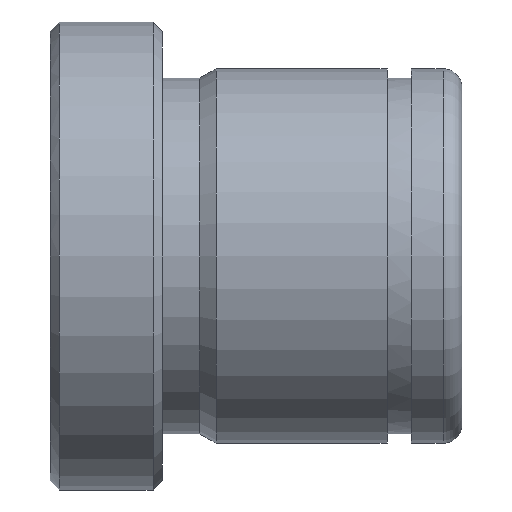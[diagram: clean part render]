
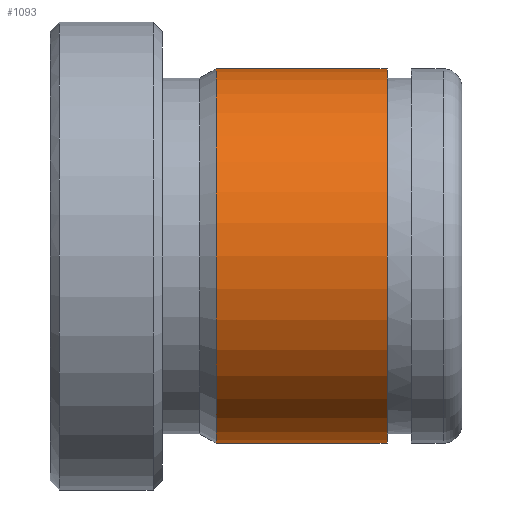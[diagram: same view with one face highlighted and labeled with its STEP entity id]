
A CAD part, front view. The second image highlights one B-rep face of the part: STEP entity #1093.
In plain terms, the highlighted cylindrical face has radius 10 mm (diameter 20 mm), a partial arc.
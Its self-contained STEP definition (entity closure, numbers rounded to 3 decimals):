
#877=CARTESIAN_POINT('Vertex',(8.866,0.,-10.)) ;
#884=CARTESIAN_POINT('Vertex',(8.866,0.,10.)) ;
#913=CARTESIAN_POINT('Axis2P3D Location',(8.866,0.,0.)) ;
#917=CARTESIAN_POINT('Vertex',(8.866,-10.,0.)) ;
#920=CARTESIAN_POINT('Axis2P3D Location',(8.866,0.,0.)) ;
#1033=CARTESIAN_POINT('Line Origine',(44.,0.,10.)) ;
#1037=CARTESIAN_POINT('Vertex',(18.,0.,10.)) ;
#1051=CARTESIAN_POINT('Vertex',(18.,0.,-10.)) ;
#1054=CARTESIAN_POINT('Line Origine',(44.,0.,-10.)) ;
#1068=CARTESIAN_POINT('Axis2P3D Location',(44.,0.,0.)) ;
#1073=CARTESIAN_POINT('Axis2P3D Location',(18.,0.,0.)) ;
#1077=CARTESIAN_POINT('Vertex',(18.,-10.,0.)) ;
#1080=CARTESIAN_POINT('Axis2P3D Location',(18.,0.,0.)) ;
#914=DIRECTION('Axis2P3D Direction',(1.,0.,-0.)) ;
#921=DIRECTION('Axis2P3D Direction',(1.,0.,-0.)) ;
#1034=DIRECTION('Vector Direction',(-1.,0.,0.)) ;
#1055=DIRECTION('Vector Direction',(-1.,0.,0.)) ;
#1069=DIRECTION('Axis2P3D Direction',(-1.,-0.,-0.)) ;
#1070=DIRECTION('Axis2P3D XDirection',(0.,0.,-1.)) ;
#1074=DIRECTION('Axis2P3D Direction',(-1.,-0.,-0.)) ;
#1081=DIRECTION('Axis2P3D Direction',(-1.,-0.,-0.)) ;
#915=AXIS2_PLACEMENT_3D('Circle Axis2P3D',#913,#914,$) ;
#922=AXIS2_PLACEMENT_3D('Circle Axis2P3D',#920,#921,$) ;
#1071=AXIS2_PLACEMENT_3D('Cylinder Axis2P3D',#1068,#1069,#1070) ;
#1075=AXIS2_PLACEMENT_3D('Circle Axis2P3D',#1073,#1074,$) ;
#1082=AXIS2_PLACEMENT_3D('Circle Axis2P3D',#1080,#1081,$) ;
#1086=ORIENTED_EDGE('',*,*,#1058,.T.) ;
#1087=ORIENTED_EDGE('',*,*,#1079,.F.) ;
#1088=ORIENTED_EDGE('',*,*,#1084,.F.) ;
#1089=ORIENTED_EDGE('',*,*,#1039,.T.) ;
#1090=ORIENTED_EDGE('',*,*,#924,.T.) ;
#1091=ORIENTED_EDGE('',*,*,#919,.T.) ;
#1035=VECTOR('Line Direction',#1034,1.) ;
#1056=VECTOR('Line Direction',#1055,1.) ;
#1093=ADVANCED_FACE('553-15X22',(#1092),#1072,.T.) ;
#916=CIRCLE('generated circle',#915,10.) ;
#923=CIRCLE('generated circle',#922,10.) ;
#1076=CIRCLE('generated circle',#1075,10.) ;
#1083=CIRCLE('generated circle',#1082,10.) ;
#1072=CYLINDRICAL_SURFACE('generated cylinder',#1071,10.) ;
#919=EDGE_CURVE('',#918,#878,#916,.T.) ;
#924=EDGE_CURVE('',#885,#918,#923,.T.) ;
#1039=EDGE_CURVE('',#1038,#885,#1036,.T.) ;
#1058=EDGE_CURVE('',#878,#1052,#1057,.F.) ;
#1079=EDGE_CURVE('',#1078,#1052,#1076,.F.) ;
#1084=EDGE_CURVE('',#1038,#1078,#1083,.F.) ;
#1085=EDGE_LOOP('',(#1086,#1087,#1088,#1089,#1090,#1091)) ;
#1092=FACE_OUTER_BOUND('',#1085,.T.) ;
#1036=LINE('Line',#1033,#1035) ;
#1057=LINE('Line',#1054,#1056) ;
#878=VERTEX_POINT('',#877) ;
#885=VERTEX_POINT('',#884) ;
#918=VERTEX_POINT('',#917) ;
#1038=VERTEX_POINT('',#1037) ;
#1052=VERTEX_POINT('',#1051) ;
#1078=VERTEX_POINT('',#1077) ;
